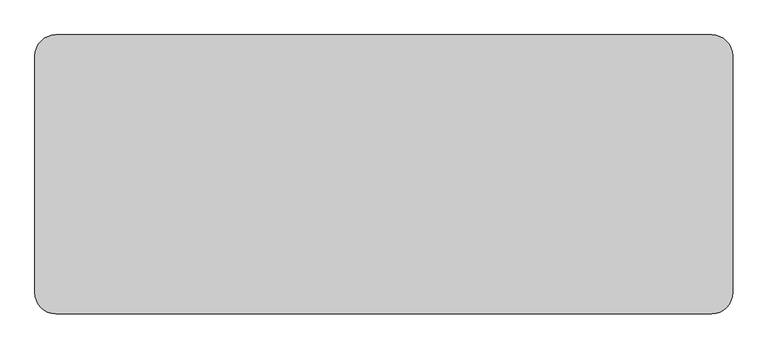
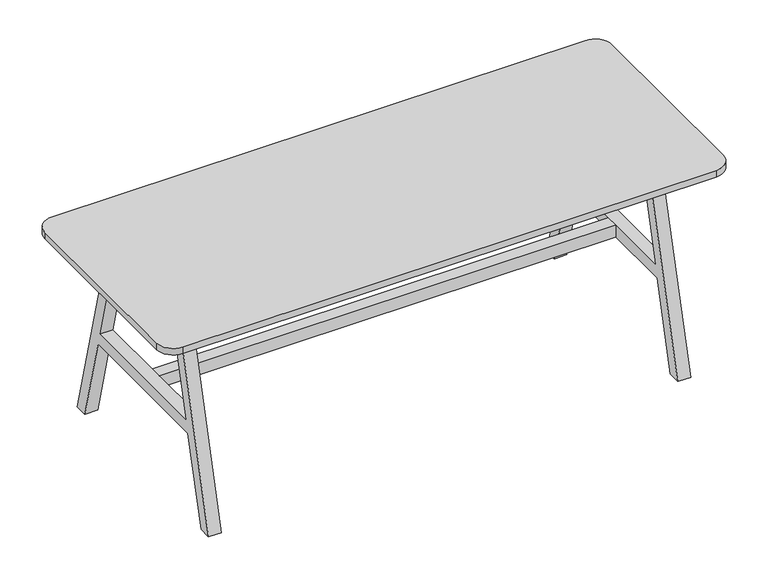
"""IFC4 building model written with IfcOpenShell, lengths in millimetres: furniture geometry, Furniture-Chair-LyndonDesign-Agent_AGE_17 : Furniture-Chair-LyndonDesign-Agent_AGE_17."""

from ifc_helpers import new_model, si_unit, point, frame, frame_2d, origin, place, context, project, spatial, polyline, circle_curve, trimmed, segment, composite_curve, outline, extrude, source, transform, mapped, element, save


def furniture_62e1d99d(model_context):
    return source(origin(), model_context, "Body", "SweptSolid", [
        extrude(outline(composite_curve([segment(trimmed(circle_curve(frame_2d((275.9053878, 719.9999819)), 43.9999938), [point((319.7231878, 716.0))], [point((275.9053878, 675.9999881))], False, "CARTESIAN"), True, "CONTINUOUS"), segment(polyline([(275.9053878, 675.9999881), (240.0368772, 675.9999881)]), True, "CONTINUOUS"), segment(trimmed(circle_curve(frame_2d((240.0368772, 663.8271245)), 12.1728635), [point((240.0368772, 675.9999881))], [point((227.8640137, 663.8271245))], True, "CARTESIAN"), True, "CONTINUOUS"), segment(polyline([(227.8640137, 663.8271245), (400.1016206, 0.0), (354.4116875, 0.0), (273.9766195, 309.999989), (-273.9766195, 309.999989), (-354.4116875, 0.0), (-400.1016206, 0.0), (-228.4272583, 661.6563034)]), True, "CONTINUOUS"), segment(trimmed(circle_curve(frame_2d((-239.5242557, 664.5355474)), 11.4644406), [point((-228.4272583, 661.6563034))], [point((-239.5242557, 675.9999881))], True, "CARTESIAN"), True, "CONTINUOUS"), segment(polyline([(-239.5242557, 675.9999881), (-275.9053797, 675.9999881)]), True, "CONTINUOUS"), segment(trimmed(circle_curve(frame_2d((-275.9053797, 719.9999908)), 44.0000027), [point((-275.9053797, 675.9999881))], [point((-319.7231878, 716.0))], False, "CARTESIAN"), True, "CONTINUOUS"), segment(polyline([(-319.7231878, 716.0), (319.7231878, 716.0)]), True, "CONTINUOUS")], self_intersect=False), holes=[composite_curve([segment(trimmed(circle_curve(frame_2d((-165.405383, 658.4119913)), 17.5879967), [point((-165.405383, 675.9999881))], [point((-182.3844228, 663.0000012))], True, "CARTESIAN"), True, "CONTINUOUS"), segment(polyline([(-182.3844228, 663.0000012), (-262.3005609, 354.999989), (262.3005609, 354.999989), (182.3844228, 663.0000012)]), True, "CONTINUOUS"), segment(trimmed(circle_curve(frame_2d((165.579748, 658.6397263)), 17.3611374), [point((182.3844228, 663.0000012))], [point((165.4053799, 675.9999881))], True, "CARTESIAN"), True, "CONTINUOUS"), segment(polyline([(165.4053799, 675.9999881), (-165.405383, 675.9999881)]), True, "CONTINUOUS")], self_intersect=False)]), frame((-849.9162211, 0.0, 0.0), z_axis=(1.0, 0.0, 0.0), x_axis=(0.0, 1.0, 0.0)), (0.0, 0.0, 1.0), 45.0),
        extrude(outline(composite_curve([segment(trimmed(circle_curve(frame_2d((275.9053878, 719.9999819)), 43.9999938), [point((319.7231878, 716.0))], [point((275.9053878, 675.9999881))], False, "CARTESIAN"), True, "CONTINUOUS"), segment(polyline([(275.9053878, 675.9999881), (240.0368772, 675.9999881)]), True, "CONTINUOUS"), segment(trimmed(circle_curve(frame_2d((240.0368772, 663.8271245)), 12.1728635), [point((240.0368772, 675.9999881))], [point((227.8640137, 663.8271245))], True, "CARTESIAN"), True, "CONTINUOUS"), segment(polyline([(227.8640137, 663.8271245), (400.1016206, 0.0), (354.4116875, 0.0), (273.9766195, 309.999989), (-273.9766195, 309.999989), (-354.4116875, 0.0), (-400.1016206, 0.0), (-228.4272583, 661.6563034)]), True, "CONTINUOUS"), segment(trimmed(circle_curve(frame_2d((-239.5242557, 664.5355474)), 11.4644406), [point((-228.4272583, 661.6563034))], [point((-239.5242557, 675.9999881))], True, "CARTESIAN"), True, "CONTINUOUS"), segment(polyline([(-239.5242557, 675.9999881), (-275.9053797, 675.9999881)]), True, "CONTINUOUS"), segment(trimmed(circle_curve(frame_2d((-275.9053797, 719.9999908)), 44.0000027), [point((-275.9053797, 675.9999881))], [point((-319.7231878, 716.0))], False, "CARTESIAN"), True, "CONTINUOUS"), segment(polyline([(-319.7231878, 716.0), (319.7231878, 716.0)]), True, "CONTINUOUS")], self_intersect=False), holes=[composite_curve([segment(trimmed(circle_curve(frame_2d((-165.405383, 658.4119913)), 17.5879967), [point((-165.405383, 675.9999881))], [point((-182.3844228, 663.0000012))], True, "CARTESIAN"), True, "CONTINUOUS"), segment(polyline([(-182.3844228, 663.0000012), (-262.3005609, 354.999989), (262.3005609, 354.999989), (182.3844228, 663.0000012)]), True, "CONTINUOUS"), segment(trimmed(circle_curve(frame_2d((165.579748, 658.6397263)), 17.3611374), [point((182.3844228, 663.0000012))], [point((165.4053799, 675.9999881))], True, "CARTESIAN"), True, "CONTINUOUS"), segment(polyline([(165.4053799, 675.9999881), (-165.405383, 675.9999881)]), True, "CONTINUOUS")], self_intersect=False)]), frame((804.9162211, 0.0, 0.0), z_axis=(1.0, 0.0, 0.0), x_axis=(0.0, 1.0, 0.0)), (0.0, 0.0, 1.0), 45.0),
        extrude(outline(polyline([(-223.0425259, 636.4629989), (-209.0180065, 716.0), (-184.6477679, 716.0), (-199.407585, 632.292918), (-223.0425259, 636.4629989)])), frame((-804.891105, 0.0, 0.0), z_axis=(1.0, 0.0, 0.0), x_axis=(0.0, 1.0, 0.0)), (0.0, 0.0, 1.0), 1609.8073262),
        extrude(outline(polyline([(223.0425259, 636.4629989), (199.407585, 632.292918), (184.6477679, 716.0), (209.0180065, 716.0), (223.0425259, 636.4629989)])), frame((-804.891105, 0.0, 0.0), z_axis=(1.0, 0.0, 0.0), x_axis=(0.0, 1.0, 0.0)), (0.0, 0.0, 1.0), 1609.8073262),
        extrude(outline(composite_curve([segment(polyline([(-940.0, 400.0), (940.0, 400.0)]), True, "CONTINUOUS"), segment(trimmed(circle_curve(frame_2d((940.0, 340.0)), 60.0), [point((940.0, 400.0))], [point((1000.0, 340.0))], False, "CARTESIAN"), True, "CONTINUOUS"), segment(polyline([(1000.0, 340.0), (1000.0, -340.0)]), True, "CONTINUOUS"), segment(trimmed(circle_curve(frame_2d((940.0, -340.0)), 60.0), [point((1000.0, -340.0))], [point((940.0, -400.0))], False, "CARTESIAN"), True, "CONTINUOUS"), segment(polyline([(940.0, -400.0), (-940.0, -400.0)]), True, "CONTINUOUS"), segment(trimmed(circle_curve(frame_2d((-940.0, -340.0)), 60.0), [point((-940.0, -400.0))], [point((-1000.0, -340.0))], False, "CARTESIAN"), True, "CONTINUOUS"), segment(polyline([(-1000.0, -340.0), (-1000.0, 340.0)]), True, "CONTINUOUS"), segment(trimmed(circle_curve(frame_2d((-940.0, 340.0)), 60.0), [point((-1000.0, 340.0))], [point((-940.0, 400.0))], False, "CARTESIAN"), True, "CONTINUOUS")], self_intersect=False)), frame((0.0, 0.0, 716.0), z_axis=(0.0, 0.0, 1.0), x_axis=(1.0, 0.0, 0.0)), (0.0, 0.0, 1.0), 24.0),
        extrude(outline(polyline([(804.9162211, -22.5), (-804.891105, -22.5), (-804.891105, 22.5), (804.9162211, 22.5), (804.9162211, -22.5)])), frame((0.0, 0.0, 309.999989), z_axis=(0.0, 0.0, 1.0), x_axis=(1.0, 0.0, 0.0)), (0.0, 0.0, 1.0), 45.0),
    ])


if __name__ == "__main__":
    model = new_model("IFC4")
    model_context = context("Model", 3, world=origin())
    ifc_project = project(units=[si_unit("LENGTHUNIT", "METRE", prefix="MILLI")], contexts=[model_context])
    site = spatial("IfcSite", under=ifc_project)
    building = spatial("IfcBuilding", under=site)
    placement = place(None, origin())
    furniture_shape = furniture_62e1d99d(model_context)
    element("IfcFurniture", 1, ObjectType="Furniture-Chair-LyndonDesign-Agent_AGE_17 : Furniture-Chair-LyndonDesign-Agent_AGE_17", at=placement, inside=building, context=model_context, shape_type="MappedRepresentation", body=[
        mapped(furniture_shape, transform((0.0, 0.0, 0.0), x_axis=(1.0, 0.0, 0.0), y_axis=(0.0, 1.0, 0.0), z_axis=(0.0, 0.0, 1.0))),
    ])
    save(model, "model.ifc")
